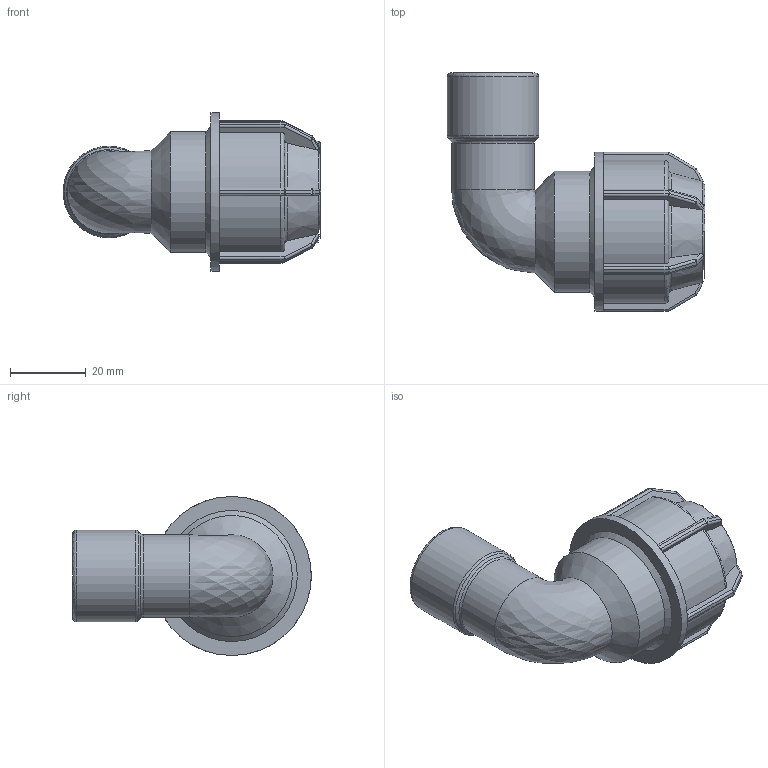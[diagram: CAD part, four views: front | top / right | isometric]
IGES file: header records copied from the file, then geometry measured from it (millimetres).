
Global section: file name: 141500020005.ipt; native system: Autodesk Inventor 2015; preprocessor: unknown; author: KIM; date: 20180409.131143; units: millimetre
Bounding box: 68.11 x 63 x 42 mm (x, y, z)
Volume: 36633.1 mm3; surface area: 16124.3 mm2
Topology: 1 solids, 1 shells, 213 faces, 513 edges, 301 vertices
Faces by surface type: plane 98, cylinder 58, revolution 24, sphere 24, cone 9
Full cylindrical faces by diameter (mm): 21.798 x1, 24.22 x1, 32 x1, 42 x1
